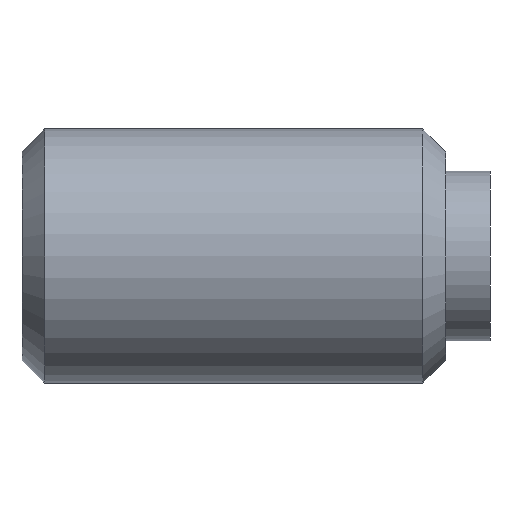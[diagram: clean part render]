
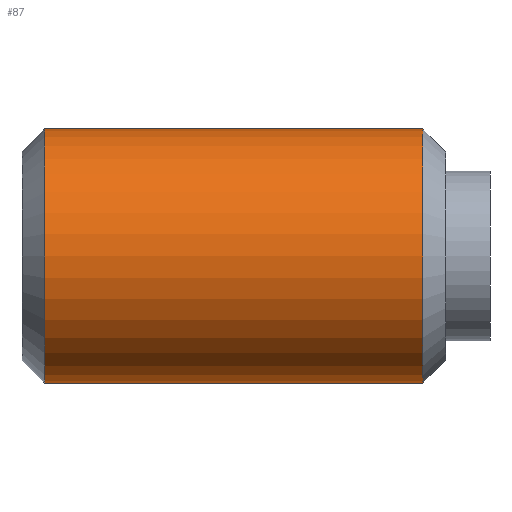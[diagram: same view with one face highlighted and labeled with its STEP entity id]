
A CAD part, left-side view. The second image highlights one B-rep face of the part: STEP entity #87.
In plain terms, the highlighted cylindrical face has radius 6 mm (diameter 12 mm), a full revolution.
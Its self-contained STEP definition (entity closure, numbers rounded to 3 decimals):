
#87 = ADVANCED_FACE( '', ( #118, #119 ), #120, .T. );
#118 = FACE_OUTER_BOUND( '', #152, .T. );
#119 = FACE_OUTER_BOUND( '', #153, .T. );
#120 = CYLINDRICAL_SURFACE( '', #154, 6. );
#152 = EDGE_LOOP( '', ( #238 ) );
#153 = EDGE_LOOP( '', ( #239 ) );
#154 = AXIS2_PLACEMENT_3D( '', #240, #241, #242 );
#238 = ORIENTED_EDGE( '', *, *, #270, .F. );
#239 = ORIENTED_EDGE( '', *, *, #271, .T. );
#240 = CARTESIAN_POINT( '', ( 0., 0., 0. ) );
#241 = DIRECTION( '', ( 0., 1., 0. ) );
#242 = DIRECTION( '', ( 0., 0., -1. ) );
#270 = EDGE_CURVE( '', #310, #310, #311, .T. );
#271 = EDGE_CURVE( '', #312, #312, #313, .T. );
#310 = VERTEX_POINT( '', #370 );
#311 = CIRCLE( '', #371, 6. );
#312 = VERTEX_POINT( '', #372 );
#313 = CIRCLE( '', #373, 6. );
#370 = CARTESIAN_POINT( '', ( 0., 3.174, -6. ) );
#371 = AXIS2_PLACEMENT_3D( '', #404, #405, #406 );
#372 = CARTESIAN_POINT( '', ( 0., 21.027, -6. ) );
#373 = AXIS2_PLACEMENT_3D( '', #407, #408, #409 );
#404 = CARTESIAN_POINT( '', ( 0., 3.174, 0. ) );
#405 = DIRECTION( '', ( 0., -1., 0. ) );
#406 = DIRECTION( '', ( 0., 0., -1. ) );
#407 = CARTESIAN_POINT( '', ( 0., 21.027, 0. ) );
#408 = DIRECTION( '', ( 0., -1., 0. ) );
#409 = DIRECTION( '', ( 0., 0., -1. ) );
